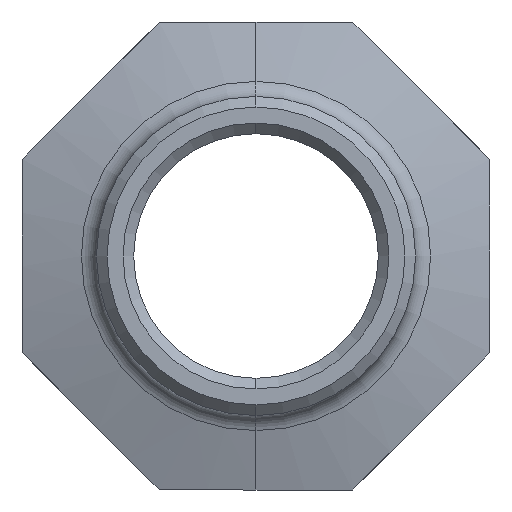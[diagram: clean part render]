
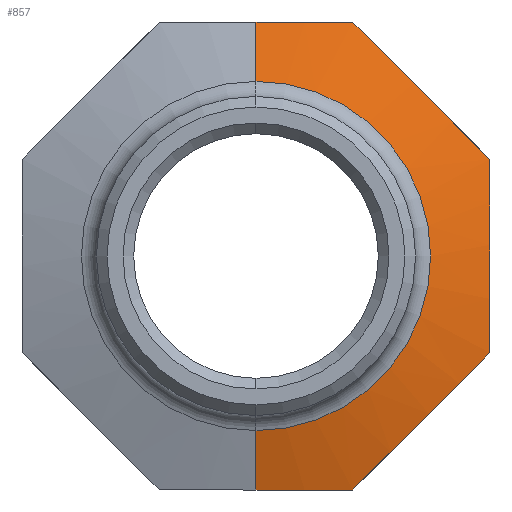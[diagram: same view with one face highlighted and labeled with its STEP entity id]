
A CAD part, front view. The second image highlights one B-rep face of the part: STEP entity #857.
In plain terms, the highlighted conical face has half-angle 73 degrees and reference radius 8.208 mm.
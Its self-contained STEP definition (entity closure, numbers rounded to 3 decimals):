
#16 = CARTESIAN_POINT ( 'NONE',  ( 11., 27.071, 1.534 ) ) ;
#33 = DIRECTION ( 'NONE',  ( 0., 1., 0. ) ) ;
#38 = B_SPLINE_CURVE_WITH_KNOTS ( 'NONE', 3,
 ( #49, #567, #962, #488 ),
 .UNSPECIFIED., .F., .F.,
 ( 4, 4 ),
 ( 0.004, 0.009 ),
 .UNSPECIFIED. ) ;
#49 = CARTESIAN_POINT ( 'NONE',  ( 4.556, 27.347, -11. ) ) ;
#54 = DIRECTION ( 'NONE',  ( 0., 0., -1. ) ) ;
#56 = ORIENTED_EDGE ( 'NONE', *, *, #166, .F. ) ;
#57 = VERTEX_POINT ( 'NONE', #828 ) ;
#71 = EDGE_CURVE ( 'NONE', #498, #57, #728, .T. ) ;
#123 = DIRECTION ( 'NONE',  ( 0., 0.292, 0.956 ) ) ;
#137 = CARTESIAN_POINT ( 'NONE',  ( 0., 26.216, 0. ) ) ;
#150 = VERTEX_POINT ( 'NONE', #943 ) ;
#153 = CARTESIAN_POINT ( 'NONE',  ( 11., 27.347, 4.556 ) ) ;
#166 = EDGE_CURVE ( 'NONE', #150, #389, #334, .T. ) ;
#174 = ORIENTED_EDGE ( 'NONE', *, *, #448, .F. ) ;
#175 = ORIENTED_EDGE ( 'NONE', *, *, #560, .F. ) ;
#190 = AXIS2_PLACEMENT_3D ( 'NONE', #227, #33, #1030 ) ;
#209 = CARTESIAN_POINT ( 'NONE',  ( 11., 27.171, 3.048 ) ) ;
#219 = CARTESIAN_POINT ( 'NONE',  ( 0., 26.216, -8.208 ) ) ;
#227 = CARTESIAN_POINT ( 'NONE',  ( 0., 26.216, 0. ) ) ;
#243 = ORIENTED_EDGE ( 'NONE', *, *, #818, .F. ) ;
#279 = CONICAL_SURFACE ( 'NONE', #190, 8.208, 1.274 ) ;
#287 = CARTESIAN_POINT ( 'NONE',  ( 9.926, 27.169, 5.63 ) ) ;
#313 = CARTESIAN_POINT ( 'NONE',  ( 5.63, 27.169, -9.926 ) ) ;
#321 = CARTESIAN_POINT ( 'NONE',  ( 0., 26.216, 8.208 ) ) ;
#323 = CARTESIAN_POINT ( 'NONE',  ( 0., 26.216, -8.208 ) ) ;
#334 = B_SPLINE_CURVE_WITH_KNOTS ( 'NONE', 3,
 ( #458, #1005, #846, #287, #762 ),
 .UNSPECIFIED., .F., .F.,
 ( 4, 1, 4 ),
 ( 0., 0.005, 0.009 ),
 .UNSPECIFIED. ) ;
#360 = ORIENTED_EDGE ( 'NONE', *, *, #554, .F. ) ;
#385 = CARTESIAN_POINT ( 'NONE',  ( 11., 27.347, -4.556 ) ) ;
#389 = VERTEX_POINT ( 'NONE', #153 ) ;
#408 = CARTESIAN_POINT ( 'NONE',  ( 0., 26.216, 8.208 ) ) ;
#427 = CARTESIAN_POINT ( 'NONE',  ( 0., 27.07, 11. ) ) ;
#436 = ORIENTED_EDGE ( 'NONE', *, *, #71, .T. ) ;
#448 = EDGE_CURVE ( 'NONE', #498, #829, #749, .T. ) ;
#458 = CARTESIAN_POINT ( 'NONE',  ( 4.556, 27.347, 11. ) ) ;
#465 = CARTESIAN_POINT ( 'NONE',  ( 11., 27.188, -3.031 ) ) ;
#481 = VERTEX_POINT ( 'NONE', #493 ) ;
#488 = CARTESIAN_POINT ( 'NONE',  ( 0., 27.07, -11. ) ) ;
#492 = CARTESIAN_POINT ( 'NONE',  ( 4.556, 27.347, 11. ) ) ;
#493 = CARTESIAN_POINT ( 'NONE',  ( 4.556, 27.347, -11. ) ) ;
#498 = VERTEX_POINT ( 'NONE', #323 ) ;
#541 = CARTESIAN_POINT ( 'NONE',  ( 11., 27.07, -0.745 ) ) ;
#542 = FACE_OUTER_BOUND ( 'NONE', #722, .T. ) ;
#554 = EDGE_CURVE ( 'NONE', #848, #481, #840, .T. ) ;
#560 = EDGE_CURVE ( 'NONE', #829, #706, #982, .T. ) ;
#564 = CARTESIAN_POINT ( 'NONE',  ( 11., 27.347, -4.556 ) ) ;
#566 = B_SPLINE_CURVE_WITH_KNOTS ( 'NONE', 3,
 ( #690, #209, #16, #541, #1010, #465, #935, #385 ),
 .UNSPECIFIED., .F., .F.,
 ( 4, 2, 2, 4 ),
 ( 0.004, 0.009, 0.011, 0.013 ),
 .UNSPECIFIED. ) ;
#567 = CARTESIAN_POINT ( 'NONE',  ( 3.043, 27.17, -11. ) ) ;
#596 = CARTESIAN_POINT ( 'NONE',  ( 1.524, 27.07, 11. ) ) ;
#642 = DIRECTION ( 'NONE',  ( 0., -1., 0. ) ) ;
#673 = VECTOR ( 'NONE', #694, 1000. ) ;
#690 = CARTESIAN_POINT ( 'NONE',  ( 11., 27.347, 4.556 ) ) ;
#694 = DIRECTION ( 'NONE',  ( 0., 0.292, -0.956 ) ) ;
#706 = VERTEX_POINT ( 'NONE', #945 ) ;
#722 = EDGE_LOOP ( 'NONE', ( #174, #436, #243, #360, #1023, #56, #989, #175 ) ) ;
#728 = LINE ( 'NONE', #219, #673 ) ;
#734 = EDGE_CURVE ( 'NONE', #389, #848, #566, .T. ) ;
#749 = CIRCLE ( 'NONE', #994, 8.208 ) ;
#762 = CARTESIAN_POINT ( 'NONE',  ( 11., 27.347, 4.556 ) ) ;
#793 = CARTESIAN_POINT ( 'NONE',  ( 4.556, 27.347, -11. ) ) ;
#813 = EDGE_CURVE ( 'NONE', #706, #150, #816, .T. ) ;
#816 = B_SPLINE_CURVE_WITH_KNOTS ( 'NONE', 3,
 ( #427, #596, #965, #492 ),
 .UNSPECIFIED., .F., .F.,
 ( 4, 4 ),
 ( 0.015, 0.02 ),
 .UNSPECIFIED. ) ;
#818 = EDGE_CURVE ( 'NONE', #481, #57, #38, .T. ) ;
#828 = CARTESIAN_POINT ( 'NONE',  ( 0., 27.07, -11. ) ) ;
#829 = VERTEX_POINT ( 'NONE', #321 ) ;
#840 = B_SPLINE_CURVE_WITH_KNOTS ( 'NONE', 3,
 ( #959, #1029, #869, #313, #793 ),
 .UNSPECIFIED., .F., .F.,
 ( 4, 1, 4 ),
 ( 0., 0.005, 0.009 ),
 .UNSPECIFIED. ) ;
#846 = CARTESIAN_POINT ( 'NONE',  ( 7.778, 26.971, 7.778 ) ) ;
#848 = VERTEX_POINT ( 'NONE', #564 ) ;
#857 = ADVANCED_FACE ( 'NONE', ( #542 ), #279, .T. ) ;
#869 = CARTESIAN_POINT ( 'NONE',  ( 7.778, 26.971, -7.778 ) ) ;
#935 = CARTESIAN_POINT ( 'NONE',  ( 11., 27.258, -3.796 ) ) ;
#943 = CARTESIAN_POINT ( 'NONE',  ( 4.556, 27.347, 11. ) ) ;
#945 = CARTESIAN_POINT ( 'NONE',  ( 0., 27.07, 11. ) ) ;
#959 = CARTESIAN_POINT ( 'NONE',  ( 11., 27.347, -4.556 ) ) ;
#962 = CARTESIAN_POINT ( 'NONE',  ( 1.524, 27.07, -11. ) ) ;
#964 = VECTOR ( 'NONE', #123, 1000. ) ;
#965 = CARTESIAN_POINT ( 'NONE',  ( 3.043, 27.17, 11. ) ) ;
#982 = LINE ( 'NONE', #408, #964 ) ;
#989 = ORIENTED_EDGE ( 'NONE', *, *, #813, .F. ) ;
#994 = AXIS2_PLACEMENT_3D ( 'NONE', #137, #642, #54 ) ;
#1005 = CARTESIAN_POINT ( 'NONE',  ( 5.63, 27.169, 9.926 ) ) ;
#1010 = CARTESIAN_POINT ( 'NONE',  ( 11., 27.094, -1.506 ) ) ;
#1023 = ORIENTED_EDGE ( 'NONE', *, *, #734, .F. ) ;
#1029 = CARTESIAN_POINT ( 'NONE',  ( 9.926, 27.169, -5.63 ) ) ;
#1030 = DIRECTION ( 'NONE',  ( 0., 0., 1. ) ) ;
